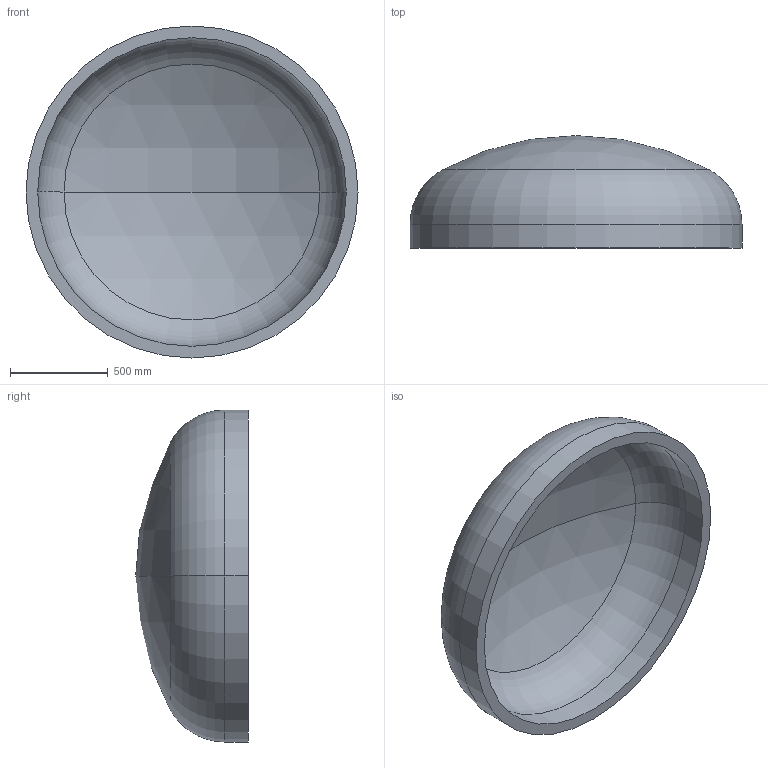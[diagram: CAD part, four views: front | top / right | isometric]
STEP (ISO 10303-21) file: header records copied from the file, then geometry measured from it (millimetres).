
FILE_DESCRIPTION (( 'STEP AP203' ), '1' );
FILE_NAME ('DIN 28013 Korbbogenform_-_Boden DIN 28013 - 1700 x 120 - I - s=60.step', '2016-07-01T11:55:52', ( '' ), ( '' ), 'SwSTEP 2.0', 'SolidWorks 2013', '' );
FILE_SCHEMA (( 'CONFIG_CONTROL_DESIGN' ));
Length unit declared in the file: millimetre
Products named in the file (1): DIN 28013 Korbbogenform_-_Boden DIN 28013 - 1700 x 120 - I - s=60
Bounding box: 1700 x 576.1 x 1700 mm (x, y, z)
Volume: 217000848.3 mm3; surface area: 7550032.1 mm2
Topology: 1 solids, 1 shells, 13 faces, 24 edges, 14 vertices
Faces by surface type: torus 4, cylinder 4, sphere 4, plane 1
Entity records: 407 total; most frequent: DIRECTION 72, CARTESIAN_POINT 52, ORIENTED_EDGE 48, AXIS2_PLACEMENT_3D 34, EDGE_CURVE 24, CIRCLE 20, VERTEX_POINT 14, EDGE_LOOP 14
